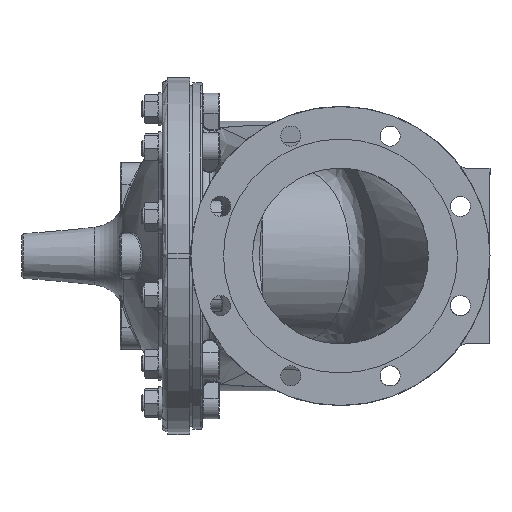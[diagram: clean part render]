
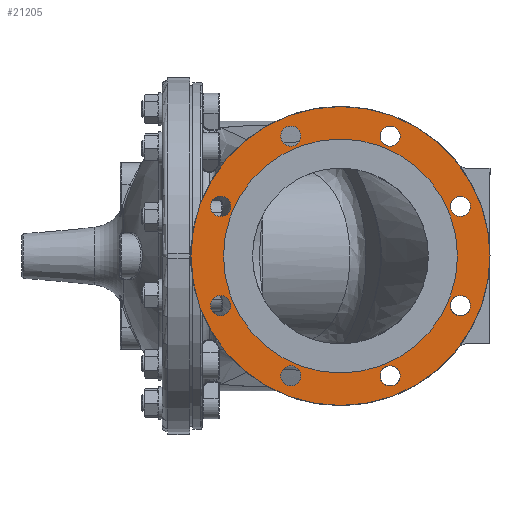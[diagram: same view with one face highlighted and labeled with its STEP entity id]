
A CAD part, left-side view. The second image highlights one B-rep face of the part: STEP entity #21205.
In plain terms, the highlighted planar face has unit normal (-1, 0, 0).
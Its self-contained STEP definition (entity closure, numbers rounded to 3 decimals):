
#3509=FACE_BOUND('',#5114,.T.);
#3510=FACE_BOUND('',#5115,.T.);
#3511=FACE_BOUND('',#5116,.T.);
#3512=FACE_BOUND('',#5117,.T.);
#3513=FACE_BOUND('',#5118,.T.);
#3514=FACE_BOUND('',#5119,.T.);
#3515=FACE_BOUND('',#5120,.T.);
#3516=FACE_BOUND('',#5121,.T.);
#3517=FACE_BOUND('',#5122,.T.);
#3669=FACE_OUTER_BOUND('',#5113,.T.);
#5113=EDGE_LOOP('',(#14255));
#5114=EDGE_LOOP('',(#14256));
#5115=EDGE_LOOP('',(#14257));
#5116=EDGE_LOOP('',(#14258));
#5117=EDGE_LOOP('',(#14259));
#5118=EDGE_LOOP('',(#14260));
#5119=EDGE_LOOP('',(#14261));
#5120=EDGE_LOOP('',(#14262));
#5121=EDGE_LOOP('',(#14263));
#5122=EDGE_LOOP('',(#14264));
#6561=CIRCLE('',#22631,11.5);
#6563=CIRCLE('',#22634,11.5);
#6565=CIRCLE('',#22637,11.5);
#6567=CIRCLE('',#22640,11.5);
#6569=CIRCLE('',#22643,11.5);
#6571=CIRCLE('',#22646,11.5);
#6573=CIRCLE('',#22649,11.5);
#6575=CIRCLE('',#22652,11.5);
#6639=CIRCLE('',#22744,133.);
#6641=CIRCLE('',#22747,170.);
#8238=VERTEX_POINT('',#32043);
#8240=VERTEX_POINT('',#32049);
#8242=VERTEX_POINT('',#32055);
#8244=VERTEX_POINT('',#32061);
#8246=VERTEX_POINT('',#32067);
#8248=VERTEX_POINT('',#32073);
#8250=VERTEX_POINT('',#32079);
#8252=VERTEX_POINT('',#32085);
#8402=VERTEX_POINT('',#35062);
#8404=VERTEX_POINT('',#35068);
#10396=EDGE_CURVE('',#8238,#8238,#6561,.T.);
#10399=EDGE_CURVE('',#8240,#8240,#6563,.T.);
#10402=EDGE_CURVE('',#8242,#8242,#6565,.T.);
#10405=EDGE_CURVE('',#8244,#8244,#6567,.T.);
#10408=EDGE_CURVE('',#8246,#8246,#6569,.T.);
#10411=EDGE_CURVE('',#8248,#8248,#6571,.T.);
#10414=EDGE_CURVE('',#8250,#8250,#6573,.T.);
#10417=EDGE_CURVE('',#8252,#8252,#6575,.T.);
#10614=EDGE_CURVE('',#8402,#8402,#6639,.T.);
#10617=EDGE_CURVE('',#8404,#8404,#6641,.T.);
#14255=ORIENTED_EDGE('',*,*,#10617,.F.);
#14256=ORIENTED_EDGE('',*,*,#10396,.T.);
#14257=ORIENTED_EDGE('',*,*,#10399,.T.);
#14258=ORIENTED_EDGE('',*,*,#10402,.T.);
#14259=ORIENTED_EDGE('',*,*,#10405,.T.);
#14260=ORIENTED_EDGE('',*,*,#10408,.T.);
#14261=ORIENTED_EDGE('',*,*,#10411,.T.);
#14262=ORIENTED_EDGE('',*,*,#10414,.T.);
#14263=ORIENTED_EDGE('',*,*,#10417,.T.);
#14264=ORIENTED_EDGE('',*,*,#10614,.F.);
#20768=PLANE('',#22746);
#21205=ADVANCED_FACE('',(#3669,#3509,#3510,#3511,#3512,#3513,#3514,#3515,
#3516,#3517),#20768,.F.);
#22631=AXIS2_PLACEMENT_3D('',#32044,#25521,#25522);
#22634=AXIS2_PLACEMENT_3D('',#32050,#25528,#25529);
#22637=AXIS2_PLACEMENT_3D('',#32056,#25535,#25536);
#22640=AXIS2_PLACEMENT_3D('',#32062,#25542,#25543);
#22643=AXIS2_PLACEMENT_3D('',#32068,#25549,#25550);
#22646=AXIS2_PLACEMENT_3D('',#32074,#25556,#25557);
#22649=AXIS2_PLACEMENT_3D('',#32080,#25563,#25564);
#22652=AXIS2_PLACEMENT_3D('',#32086,#25570,#25571);
#22744=AXIS2_PLACEMENT_3D('',#35063,#25783,#25784);
#22746=AXIS2_PLACEMENT_3D('',#35067,#25788,#25789);
#22747=AXIS2_PLACEMENT_3D('',#35069,#25790,#25791);
#25521=DIRECTION('center_axis',(1.,0.,0.));
#25522=DIRECTION('ref_axis',(0.,-0.707,0.707));
#25528=DIRECTION('center_axis',(1.,0.,0.));
#25529=DIRECTION('ref_axis',(0.,-1.,0.));
#25535=DIRECTION('center_axis',(1.,0.,0.));
#25536=DIRECTION('ref_axis',(0.,-0.707,-0.707));
#25542=DIRECTION('center_axis',(1.,0.,0.));
#25543=DIRECTION('ref_axis',(0.,0.,
-1.));
#25549=DIRECTION('center_axis',(1.,0.,0.));
#25550=DIRECTION('ref_axis',(0.,0.707,-0.707));
#25556=DIRECTION('center_axis',(1.,0.,0.));
#25557=DIRECTION('ref_axis',(0.,1.,0.));
#25563=DIRECTION('center_axis',(1.,0.,0.));
#25564=DIRECTION('ref_axis',(0.,0.707,0.707));
#25570=DIRECTION('center_axis',(1.,0.,0.));
#25571=DIRECTION('ref_axis',(0.,0.,1.));
#25783=DIRECTION('center_axis',(-1.,0.,0.));
#25784=DIRECTION('ref_axis',(0.,0.,-1.));
#25788=DIRECTION('center_axis',(1.,0.,0.));
#25789=DIRECTION('ref_axis',(0.,0.,-1.));
#25790=DIRECTION('center_axis',(1.,0.,0.));
#25791=DIRECTION('ref_axis',(0.,1.,0.));
#32043=CARTESIAN_POINT('',(-297.,-36.696,-64.578));
#32044=CARTESIAN_POINT('Origin',(-297.,-44.828,-56.446));
#32049=CARTESIAN_POINT('',(-297.,-33.328,56.446));
#32050=CARTESIAN_POINT('Origin',(-297.,-44.828,56.446));
#32055=CARTESIAN_POINT('',(-297.,-116.522,144.404));
#32056=CARTESIAN_POINT('Origin',(-297.,-124.654,136.272));
#32061=CARTESIAN_POINT('',(-297.,-237.546,147.772));
#32062=CARTESIAN_POINT('Origin',(-297.,-237.546,136.272));
#32067=CARTESIAN_POINT('',(-297.,-325.504,64.578));
#32068=CARTESIAN_POINT('Origin',(-297.,-317.372,56.446));
#32073=CARTESIAN_POINT('',(-297.,-328.872,-56.446));
#32074=CARTESIAN_POINT('Origin',(-297.,-317.372,-56.446));
#32079=CARTESIAN_POINT('',(-297.,-245.678,-144.404));
#32080=CARTESIAN_POINT('Origin',(-297.,-237.546,-136.272));
#32085=CARTESIAN_POINT('',(-297.,-124.654,-147.772));
#32086=CARTESIAN_POINT('Origin',(-297.,-124.654,-136.272));
#35062=CARTESIAN_POINT('',(-297.,-181.1,133.));
#35063=CARTESIAN_POINT('Origin',(-297.,-181.1,0.));
#35067=CARTESIAN_POINT('Origin',(-297.,-181.1,0.));
#35068=CARTESIAN_POINT('',(-297.,-351.1,0.));
#35069=CARTESIAN_POINT('Origin',(-297.,-181.1,0.));
